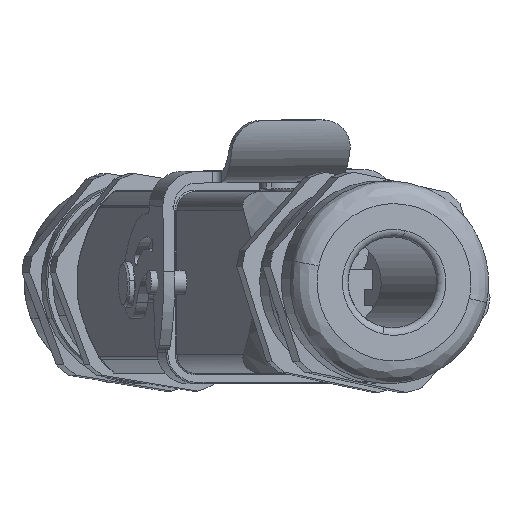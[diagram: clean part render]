
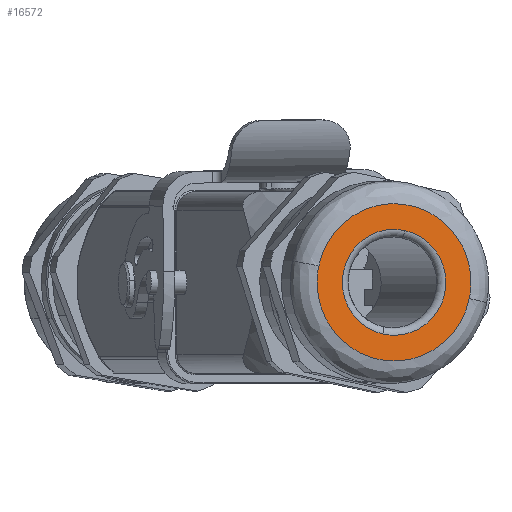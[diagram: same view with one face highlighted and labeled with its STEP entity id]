
A CAD part, left-side view. The second image highlights one B-rep face of the part: STEP entity #16572.
In plain terms, the highlighted planar face has unit normal (-0.977, -0.213, 0) as drawn and (0, 0, 1) by its records, which use the part's own axes.
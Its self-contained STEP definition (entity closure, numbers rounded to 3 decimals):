
#331 = EDGE_LOOP ( 'NONE', ( #14468, #10442 ) ) ;
#949 = VERTEX_POINT ( 'NONE', #38098 ) ;
#2473 = CIRCLE ( 'NONE', #33185, 7. ) ;
#2718 = CARTESIAN_POINT ( 'NONE',  ( 0., 10.4, 35.5 ) ) ;
#8230 = CARTESIAN_POINT ( 'NONE',  ( 7., 0., 35.5 ) ) ;
#10442 = ORIENTED_EDGE ( 'NONE', *, *, #40726, .T. ) ;
#10853 = CIRCLE ( 'NONE', #17678, 7. ) ;
#12886 = FACE_OUTER_BOUND ( 'NONE', #48794, .T. ) ;
#14468 = ORIENTED_EDGE ( 'NONE', *, *, #36463, .T. ) ;
#15265 = CARTESIAN_POINT ( 'NONE',  ( -20.8, 10.4, 35.5 ) ) ;
#16572 = ADVANCED_FACE ( 'NONE', ( #12886, #30192 ), #42235, .T. ) ;
#17678 = AXIS2_PLACEMENT_3D ( 'NONE', #41507, #20423, #28161 ) ;
#18744 = EDGE_CURVE ( 'NONE', #23300, #25845, #33733, .T. ) ;
#20423 = DIRECTION ( 'NONE',  ( 0., 0., -1. ) ) ;
#20903 = CARTESIAN_POINT ( 'NONE',  ( 0., -10.4, 35.5 ) ) ;
#21437 = DIRECTION ( 'NONE',  ( 1., 0., 0. ) ) ;
#23300 = VERTEX_POINT ( 'NONE', #29102 ) ;
#24080 = CARTESIAN_POINT ( 'NONE',  ( -20.8, -10.4, 35.5 ) ) ;
#25701 = DIRECTION ( 'NONE',  ( 0., 0., 1. ) ) ;
#25845 = VERTEX_POINT ( 'NONE', #20903 ) ;
#28161 = DIRECTION ( 'NONE',  ( 1., 0., 0. ) ) ;
#29102 = CARTESIAN_POINT ( 'NONE',  ( 0., 10.4, 35.5 ) ) ;
#30192 = FACE_BOUND ( 'NONE', #331, .T. ) ;
#30518 = CARTESIAN_POINT ( 'NONE',  ( 0., -10.4, 35.5 ) ) ;
#31441 = ORIENTED_EDGE ( 'NONE', *, *, #44686, .F. ) ;
#31587 = DIRECTION ( 'NONE',  ( 0., 0., -1. ) ) ;
#31840 = CARTESIAN_POINT ( 'NONE',  ( 0., 0., 35.5 ) ) ;
#33185 = AXIS2_PLACEMENT_3D ( 'NONE', #31840, #31587, #52418 ) ;
#33733 =( BOUNDED_CURVE ( )  B_SPLINE_CURVE ( 3, ( #46844, #34529, #50841, #30518 ),
 .UNSPECIFIED., .F., .F. ) 
 B_SPLINE_CURVE_WITH_KNOTS ( ( 4, 4 ),
 ( 0., 1. ),
 .UNSPECIFIED. ) 
 CURVE ( )  GEOMETRIC_REPRESENTATION_ITEM ( )  RATIONAL_B_SPLINE_CURVE ( ( 1., 0.333, 0.333, 1. ) ) 
 REPRESENTATION_ITEM ( '' )  );
#34529 = CARTESIAN_POINT ( 'NONE',  ( 20.8, 10.4, 35.5 ) ) ;
#34987 = AXIS2_PLACEMENT_3D ( 'NONE', #38505, #25701, #21437 ) ;
#36463 = EDGE_CURVE ( 'NONE', #43563, #949, #2473, .T. ) ;
#38098 = CARTESIAN_POINT ( 'NONE',  ( -7., 0., 35.5 ) ) ;
#38505 = CARTESIAN_POINT ( 'NONE',  ( -10.4, 10.4, 35.5 ) ) ;
#40726 = EDGE_CURVE ( 'NONE', #949, #43563, #10853, .T. ) ;
#41507 = CARTESIAN_POINT ( 'NONE',  ( 0., 0., 35.5 ) ) ;
#42235 = PLANE ( 'NONE',  #34987 ) ;
#42421 = ORIENTED_EDGE ( 'NONE', *, *, #18744, .F. ) ;
#43563 = VERTEX_POINT ( 'NONE', #8230 ) ;
#44686 = EDGE_CURVE ( 'NONE', #25845, #23300, #50687, .T. ) ;
#46844 = CARTESIAN_POINT ( 'NONE',  ( 0., 10.4, 35.5 ) ) ;
#48794 = EDGE_LOOP ( 'NONE', ( #31441, #42421 ) ) ;
#50687 =( BOUNDED_CURVE ( )  B_SPLINE_CURVE ( 3, ( #51590, #24080, #15265, #2718 ),
 .UNSPECIFIED., .F., .F. ) 
 B_SPLINE_CURVE_WITH_KNOTS ( ( 4, 4 ),
 ( 0., 1. ),
 .UNSPECIFIED. ) 
 CURVE ( )  GEOMETRIC_REPRESENTATION_ITEM ( )  RATIONAL_B_SPLINE_CURVE ( ( 1., 0.333, 0.333, 1. ) ) 
 REPRESENTATION_ITEM ( '' )  );
#50841 = CARTESIAN_POINT ( 'NONE',  ( 20.8, -10.4, 35.5 ) ) ;
#51590 = CARTESIAN_POINT ( 'NONE',  ( 0., -10.4, 35.5 ) ) ;
#52418 = DIRECTION ( 'NONE',  ( 1., 0., 0. ) ) ;
